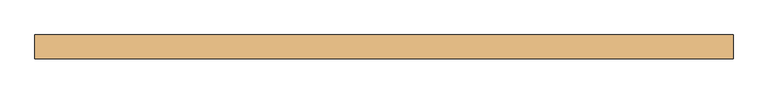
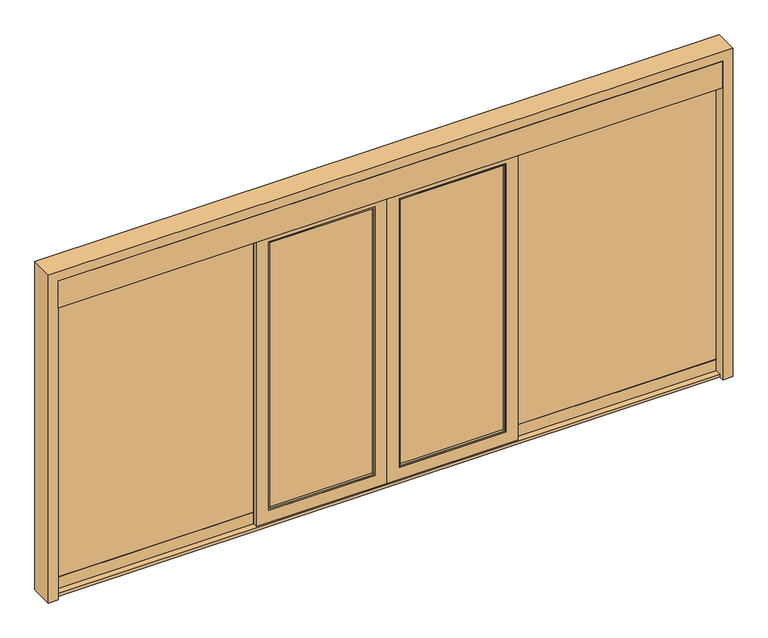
"""IFC4 building model written with IfcOpenShell, lengths in millimetres: door geometry, BC_STD_引分自動_欄間付 : SSD2_H2360W4680."""

from ifc_helpers import new_model, si_unit, frame, origin, origin_with_axes, place, context, project, spatial, polyline, outline, extrude, source, transform, mapped, element, save


def door_2ddaac4c(model_context):
    return source(origin(), model_context, "Body", "SweptSolid", [
        extrude(outline(polyline([(-920.0, 27.5), (-870.0, 27.5), (-870.0, -2.5), (-920.0, -2.5), (-920.0, 27.5)])), origin_with_axes(), (0.0, 0.0, 1.0), 2160.0),
        extrude(outline(polyline([(870.0, 27.5), (920.0, 27.5), (920.0, -2.5), (870.0, -2.5), (870.0, 27.5)])), origin_with_axes(), (0.0, 0.0, 1.0), 2160.0),
        extrude(outline(polyline([(2340.0, 5.0), (2340.0, 0.0), (920.0, 0.0), (920.0, 5.0), (2340.0, 5.0)])), frame((0.0, 0.0, 90.0), z_axis=(0.0, 0.0, 1.0), x_axis=(1.0, 0.0, 0.0)), (0.0, 0.0, 1.0), 2070.0),
        extrude(outline(polyline([(-920.0, 5.0), (-920.0, 0.0), (-2340.0, 0.0), (-2340.0, 5.0), (-920.0, 5.0)])), frame((0.0, 0.0, 90.0), z_axis=(0.0, 0.0, 1.0), x_axis=(1.0, 0.0, 0.0)), (0.0, 0.0, 1.0), 2070.0),
        extrude(outline(polyline([(2340.0, 27.5), (2340.0, -2.5), (920.0, -2.5), (920.0, 27.5), (2340.0, 27.5)])), frame((0.0, 0.0, -10.0), z_axis=(0.0, 0.0, 1.0), x_axis=(1.0, 0.0, 0.0)), (0.0, 0.0, 1.0), 100.0),
        extrude(outline(polyline([(-920.0, 27.5), (-920.0, -2.5), (-2340.0, -2.5), (-2340.0, 27.5), (-920.0, 27.5)])), frame((0.0, 0.0, -10.0), z_axis=(0.0, 0.0, 1.0), x_axis=(1.0, 0.0, 0.0)), (0.0, 0.0, 1.0), 100.0),
        extrude(outline(polyline([(825.0, -20.0), (825.0, -25.0), (95.0, -25.0), (95.0, -20.0), (825.0, -20.0)])), frame((0.0, 0.0, 110.0), z_axis=(0.0, 0.0, 1.0), x_axis=(1.0, 0.0, 0.0)), (0.0, 0.0, 1.0), 1980.0),
        extrude(outline(polyline([(100.0, 835.0), (2100.0, 835.0), (2100.0, 85.0), (100.0, 85.0), (100.0, 835.0)]), holes=[polyline([(110.0, 825.0), (110.0, 95.0), (2090.0, 95.0), (2090.0, 825.0), (110.0, 825.0)])]), frame((0.0, -42.5, 0.0), z_axis=(0.0, 1.0, 0.0), x_axis=(0.0, 0.0, 1.0)), (0.0, 0.0, 1.0), 40.0),
        extrude(outline(polyline([(10.0, 920.0), (2160.0, 920.0), (2160.0, 0.0), (10.0, 0.0), (10.0, 920.0)]), holes=[polyline([(100.0, 835.0), (100.0, 85.0), (2100.0, 85.0), (2100.0, 835.0), (100.0, 835.0)])]), frame((0.0, -42.5, 0.0), z_axis=(0.0, 1.0, 0.0), x_axis=(0.0, 0.0, 1.0)), (0.0, 0.0, 1.0), 40.0),
        extrude(outline(polyline([(-95.0, -20.0), (-95.0, -25.0), (-825.0, -25.0), (-825.0, -20.0), (-95.0, -20.0)])), frame((0.0, 0.0, 110.0), z_axis=(0.0, 0.0, 1.0), x_axis=(1.0, 0.0, 0.0)), (0.0, 0.0, 1.0), 1980.0),
        extrude(outline(polyline([(100.0, -85.0), (2100.0, -85.0), (2100.0, -835.0), (100.0, -835.0), (100.0, -85.0)]), holes=[polyline([(110.0, -95.0), (110.0, -825.0), (2090.0, -825.0), (2090.0, -95.0), (110.0, -95.0)])]), frame((0.0, -42.5, 0.0), z_axis=(0.0, 1.0, 0.0), x_axis=(0.0, 0.0, 1.0)), (0.0, 0.0, 1.0), 40.0),
        extrude(outline(polyline([(10.0, 0.0), (2160.0, 0.0), (2160.0, -920.0), (10.0, -920.0), (10.0, 0.0)]), holes=[polyline([(100.0, -85.0), (100.0, -835.0), (2100.0, -835.0), (2100.0, -85.0), (100.0, -85.0)])]), frame((0.0, -42.5, 0.0), z_axis=(0.0, 1.0, 0.0), x_axis=(0.0, 0.0, 1.0)), (0.0, 0.0, 1.0), 40.0),
        extrude(outline(polyline([(2340.0, 82.5), (2340.0, -82.5), (-2340.0, -82.5), (-2340.0, 82.5), (2340.0, 82.5)])), frame((0.0, 0.0, 2160.0), z_axis=(0.0, 0.0, 1.0), x_axis=(1.0, 0.0, 0.0)), (0.0, 0.0, 1.0), 200.0),
        extrude(outline(polyline([(-15.0, -2340.0), (2360.0, -2340.0), (2360.0, 2340.0), (-15.0, 2340.0), (-15.0, 2410.0), (2430.0, 2410.0), (2430.0, -2410.0), (-15.0, -2410.0), (-15.0, -2340.0)])), frame((0.0, -82.5, 0.0), z_axis=(0.0, 1.0, 0.0), x_axis=(0.0, 0.0, 1.0)), (0.0, 0.0, 1.0), 165.0),
        extrude(outline(polyline([(2340.0, -50.0), (-2340.0, -50.0), (-2340.0, 50.0), (2340.0, 50.0), (2340.0, -50.0)])), frame((0.0, 0.0, -15.0), z_axis=(0.0, 0.0, 1.0), x_axis=(1.0, 0.0, 0.0)), (0.0, 0.0, 1.0), 20.0),
    ])


if __name__ == "__main__":
    model = new_model("IFC4")
    model_context = context("Model", 3, world=origin())
    ifc_project = project(units=[si_unit("LENGTHUNIT", "METRE", prefix="MILLI")], contexts=[model_context])
    site = spatial("IfcSite", under=ifc_project)
    building = spatial("IfcBuilding", under=site)
    placement = place(None, origin())
    door_shape = door_2ddaac4c(model_context)
    element("IfcDoor", 1, ObjectType="BC_STD_引分自動_欄間付 : SSD2_H2360W4680", at=placement, inside=building, context=model_context, shape_type="MappedRepresentation", body=[
        mapped(door_shape, transform((0.0, 0.0, 0.0), x_axis=(1.0, 0.0, 0.0), y_axis=(0.0, 1.0, 0.0), z_axis=(0.0, 0.0, 1.0))),
    ])
    save(model, "model.ifc")
